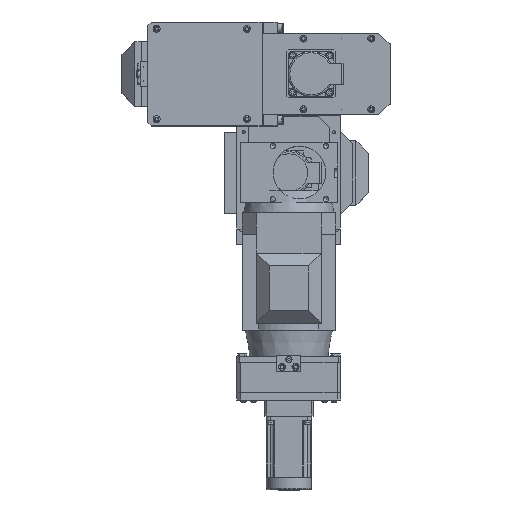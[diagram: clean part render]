
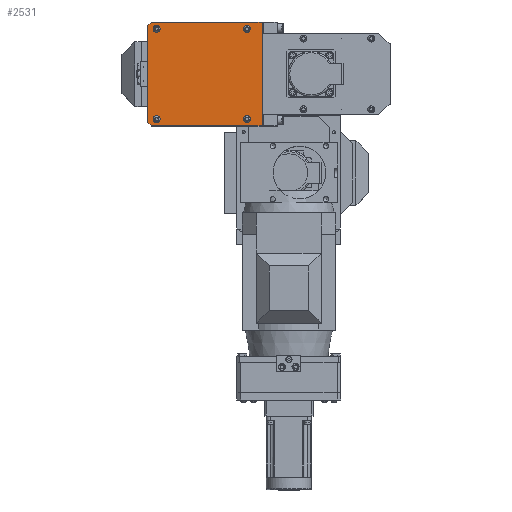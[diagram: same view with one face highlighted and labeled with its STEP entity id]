
A CAD part, top view. The second image highlights one B-rep face of the part: STEP entity #2531.
In plain terms, the highlighted planar face has unit normal (0, 0, 1).
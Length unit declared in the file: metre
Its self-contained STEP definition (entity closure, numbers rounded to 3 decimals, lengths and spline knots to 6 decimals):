
#2531 = ADVANCED_FACE( '', ( #3614, #3615, #3616, #3617, #3618 ), #3619, .T. );
#3614 = FACE_BOUND( '', #5634, .T. );
#3615 = FACE_BOUND( '', #5635, .T. );
#3616 = FACE_BOUND( '', #5636, .T. );
#3617 = FACE_BOUND( '', #5637, .T. );
#3618 = FACE_OUTER_BOUND( '', #5638, .T. );
#3619 = PLANE( '', #5639 );
#5634 = EDGE_LOOP( '', ( #9416 ) );
#5635 = EDGE_LOOP( '', ( #9417 ) );
#5636 = EDGE_LOOP( '', ( #9418 ) );
#5637 = EDGE_LOOP( '', ( #9419 ) );
#5638 = EDGE_LOOP( '', ( #9420, #9421, #9422, #9423, #9424, #9425 ) );
#5639 = AXIS2_PLACEMENT_3D( '', #9426, #9427, #9428 );
#9416 = ORIENTED_EDGE( '', *, *, #13704, .T. );
#9417 = ORIENTED_EDGE( '', *, *, #13717, .T. );
#9418 = ORIENTED_EDGE( '', *, *, #13718, .T. );
#9419 = ORIENTED_EDGE( '', *, *, #13719, .T. );
#9420 = ORIENTED_EDGE( '', *, *, #13720, .T. );
#9421 = ORIENTED_EDGE( '', *, *, #13710, .F. );
#9422 = ORIENTED_EDGE( '', *, *, #13711, .F. );
#9423 = ORIENTED_EDGE( '', *, *, #13716, .F. );
#9424 = ORIENTED_EDGE( '', *, *, #13721, .F. );
#9425 = ORIENTED_EDGE( '', *, *, #13722, .F. );
#9426 = CARTESIAN_POINT( '', ( 0., -0.001, 0.01 ) );
#9427 = DIRECTION( '', ( 0., 0., 1. ) );
#9428 = DIRECTION( '', ( 1., 0., 0. ) );
#13704 = EDGE_CURVE( '', #15534, #15534, #15535, .T. );
#13710 = EDGE_CURVE( '', #15545, #15536, #15547, .T. );
#13711 = EDGE_CURVE( '', #15548, #15545, #15549, .T. );
#13716 = EDGE_CURVE( '', #15555, #15548, #15557, .T. );
#13717 = EDGE_CURVE( '', #15558, #15558, #15559, .T. );
#13718 = EDGE_CURVE( '', #15560, #15560, #15561, .T. );
#13719 = EDGE_CURVE( '', #15562, #15562, #15563, .T. );
#13720 = EDGE_CURVE( '', #15564, #15536, #15565, .T. );
#13721 = EDGE_CURVE( '', #15566, #15555, #15567, .T. );
#13722 = EDGE_CURVE( '', #15564, #15566, #15568, .T. );
#15534 = VERTEX_POINT( '', #18842 );
#15535 = CIRCLE( '', #18843, 0.00275 );
#15536 = VERTEX_POINT( '', #18844 );
#15545 = VERTEX_POINT( '', #18857 );
#15547 = LINE( '', #18860, #18861 );
#15548 = VERTEX_POINT( '', #18862 );
#15549 = LINE( '', #18863, #18864 );
#15555 = VERTEX_POINT( '', #18873 );
#15557 = LINE( '', #18876, #18877 );
#15558 = VERTEX_POINT( '', #18878 );
#15559 = CIRCLE( '', #18879, 0.00275 );
#15560 = VERTEX_POINT( '', #18880 );
#15561 = CIRCLE( '', #18881, 0.00275 );
#15562 = VERTEX_POINT( '', #18882 );
#15563 = CIRCLE( '', #18883, 0.00275 );
#15564 = VERTEX_POINT( '', #18884 );
#15565 = LINE( '', #18885, #18886 );
#15566 = VERTEX_POINT( '', #18887 );
#15567 = LINE( '', #18888, #18889 );
#15568 = LINE( '', #18890, #18891 );
#18842 = CARTESIAN_POINT( '', ( 0.06275, 0.054, 0.01 ) );
#18843 = AXIS2_PLACEMENT_3D( '', #22905, #22906, #22907 );
#18844 = CARTESIAN_POINT( '', ( -0.069, 0.074, 0.01 ) );
#18857 = CARTESIAN_POINT( '', ( -0.069, -0.073, 0.01 ) );
#18860 = CARTESIAN_POINT( '', ( -0.069, 0.076, 0.01 ) );
#18861 = VECTOR( '', #22913, 1. );
#18862 = CARTESIAN_POINT( '', ( -0.064, -0.078, 0.01 ) );
#18863 = CARTESIAN_POINT( '', ( -0.0685, -0.0735, 0.01 ) );
#18864 = VECTOR( '', #22914, 1. );
#18873 = CARTESIAN_POINT( '', ( 0.064, -0.078, 0.01 ) );
#18876 = CARTESIAN_POINT( '', ( -0.069, -0.078, 0.01 ) );
#18877 = VECTOR( '', #22919, 1. );
#18878 = CARTESIAN_POINT( '', ( 0.06275, -0.066, 0.01 ) );
#18879 = AXIS2_PLACEMENT_3D( '', #22920, #22921, #22922 );
#18880 = CARTESIAN_POINT( '', ( -0.05725, 0.054, 0.01 ) );
#18881 = AXIS2_PLACEMENT_3D( '', #22923, #22924, #22925 );
#18882 = CARTESIAN_POINT( '', ( -0.05725, -0.066, 0.01 ) );
#18883 = AXIS2_PLACEMENT_3D( '', #22926, #22927, #22928 );
#18884 = CARTESIAN_POINT( '', ( 0.069, 0.074, 0.01 ) );
#18885 = CARTESIAN_POINT( '', ( -0.0345, 0.074, 0.01 ) );
#18886 = VECTOR( '', #22929, 1. );
#18887 = CARTESIAN_POINT( '', ( 0.069, -0.073, 0.01 ) );
#18888 = CARTESIAN_POINT( '', ( 0.0685, -0.0735, 0.01 ) );
#18889 = VECTOR( '', #22930, 1. );
#18890 = CARTESIAN_POINT( '', ( 0.069, -0.078, 0.01 ) );
#18891 = VECTOR( '', #22931, 1. );
#22905 = CARTESIAN_POINT( '', ( 0.06, 0.054, 0.01 ) );
#22906 = DIRECTION( '', ( 0., 0., -1. ) );
#22907 = DIRECTION( '', ( 1., 0., 0. ) );
#22913 = DIRECTION( '', ( 0., 1., 0. ) );
#22914 = DIRECTION( '', ( -0.707, 0.707, 0. ) );
#22919 = DIRECTION( '', ( -1., 0., 0. ) );
#22920 = CARTESIAN_POINT( '', ( 0.06, -0.066, 0.01 ) );
#22921 = DIRECTION( '', ( 0., 0., -1. ) );
#22922 = DIRECTION( '', ( 1., 0., 0. ) );
#22923 = CARTESIAN_POINT( '', ( -0.06, 0.054, 0.01 ) );
#22924 = DIRECTION( '', ( 0., 0., -1. ) );
#22925 = DIRECTION( '', ( 1., 0., 0. ) );
#22926 = CARTESIAN_POINT( '', ( -0.06, -0.066, 0.01 ) );
#22927 = DIRECTION( '', ( 0., 0., -1. ) );
#22928 = DIRECTION( '', ( 1., 0., 0. ) );
#22929 = DIRECTION( '', ( -1., 0., 0. ) );
#22930 = DIRECTION( '', ( -0.707, -0.707, 0. ) );
#22931 = DIRECTION( '', ( 0., -1., 0. ) );
